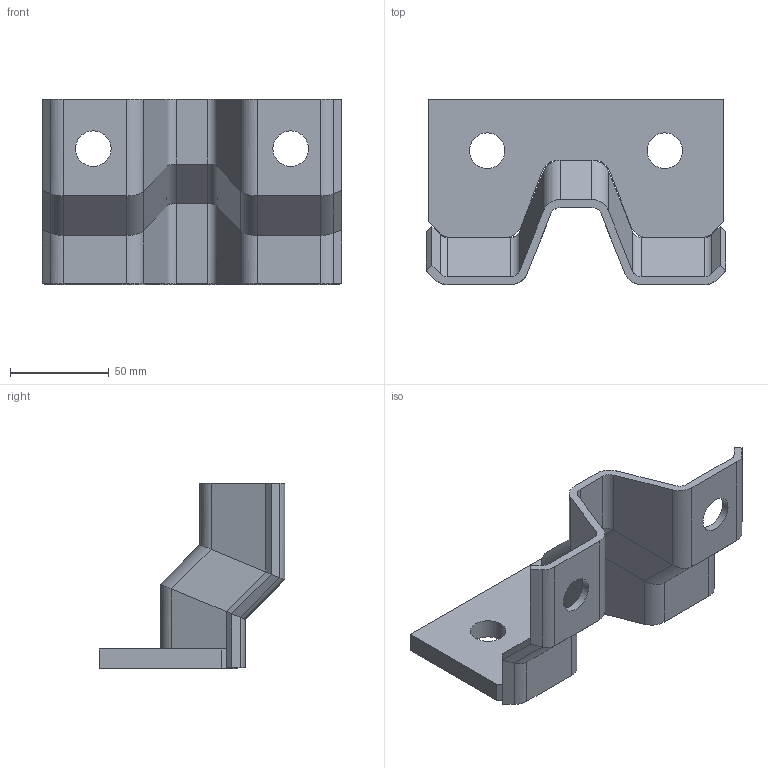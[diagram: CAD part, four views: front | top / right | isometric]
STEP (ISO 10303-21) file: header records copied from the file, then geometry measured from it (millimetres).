
FILE_DESCRIPTION(/* description */ (''),/* implementation_level */ '2;1');
FILE_NAME(/* name */ 'B125W90.stp',/* time_stamp */ '2023-07-03T10:28:59+02:00',/* author */ ('woriedl'),/* organization */ (''),/* preprocessor_version */ 'ST-DEVELOPER v19.2',/* originating_system */ 'AutoCAD Mechanical',/* authorisation */ '');
FILE_SCHEMA (('AUTOMOTIVE_DESIGN { 1 0 10303 214 3 1 1 }'));
Length unit declared in the file: centimetre
Products named in the file (1): Product
Bounding box: 151.72 x 94 x 94 mm (x, y, z)
Volume: 161827.4 mm3; surface area: 63819.4 mm2
Topology: 1 solids, 1 shells, 108 faces, 268 edges, 158 vertices
Faces by surface type: plane 62, cylinder 46
Full cylindrical faces by diameter (mm): 18 x4
Entity records: 3171 total; most frequent: DIRECTION 554, ORIENTED_EDGE 536, CARTESIAN_POINT 535, EDGE_CURVE 268, LINE 200, VECTOR 200, AXIS2_PLACEMENT_3D 177, VERTEX_POINT 158
